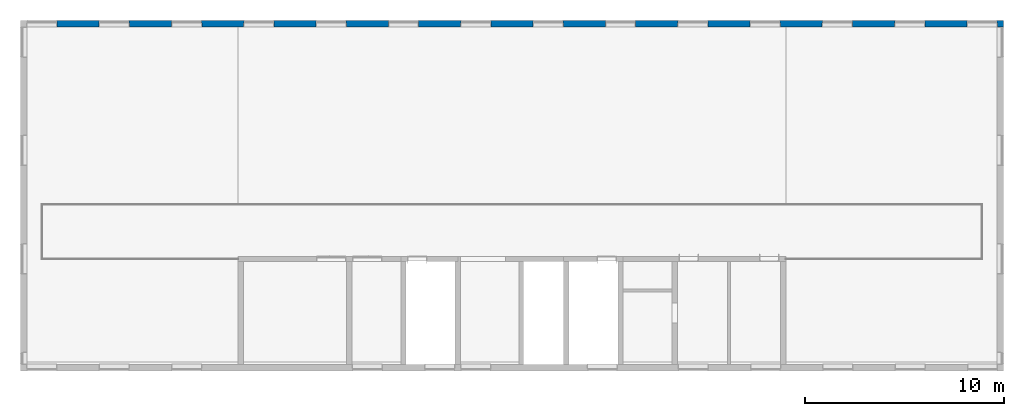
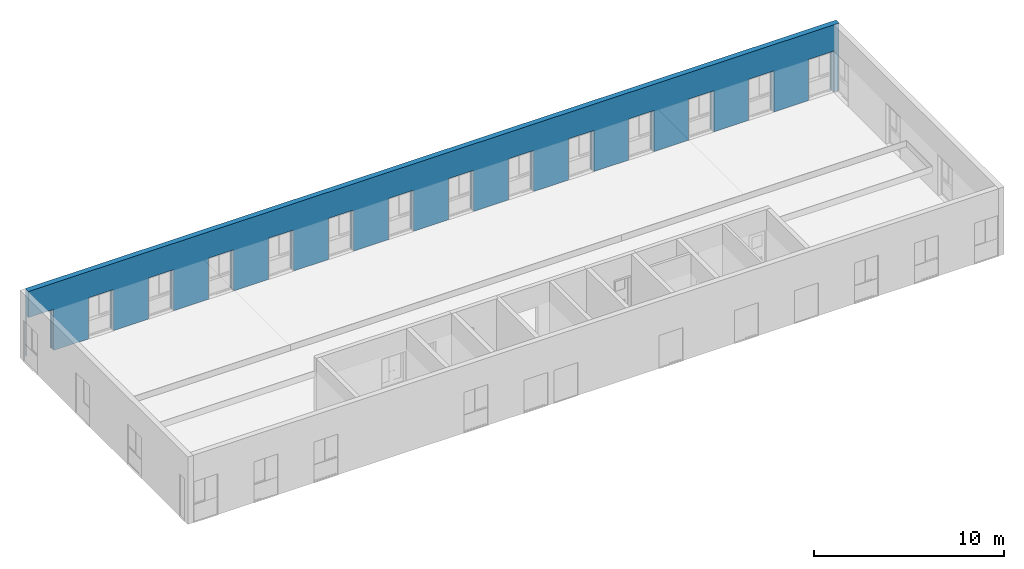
# One storey, part 7 of 11: 1 wall, 14 openings.
"""IFC4X3 building model written with IfcOpenShell, lengths in millimetres."""

import ifcopenshell
import ifcopenshell.guid

model = None  # the IFC model being written
_history = None  # IfcOwnerHistory: only IFC2X3 demands one
_inside = {}  # id of a spatial element -> (the spatial element, [elements in it])
_under = {}  # id of a project, library or spatial element -> (it, [spatial elements below it])
_declared = {}  # id of a project -> (the project, [libraries it declares])
_typed = {}  # id of a type object -> (the type object, [elements of that type])
_made_of = {}  # id of a material, layer set ... -> (it, [elements and type objects made of it])


def new_model(schema):
    """Start an empty IFC model of exactly this schema.

    Asked for "IFC4X3", IfcOpenShell would pick the latest addendum, in which some entities
    have other attributes; the version numbers below select the first issue.
    IFC2X3 requires an IfcOwnerHistory on every rooted entity: one is made here for all.
    """
    global model, _history
    if schema == "IFC4X3":
        model = ifcopenshell.file(schema_version=(4, 3, 0, 0))
    else:
        model = ifcopenshell.file(schema=schema)
    _inside.clear()
    _under.clear()
    _declared.clear()
    _typed.clear()
    _made_of.clear()
    _history = None
    if model.schema == "IFC2X3":
        org = make("IfcOrganization", Name="unknown")
        user = make(
            "IfcPersonAndOrganization",
            ThePerson=make("IfcPerson", FamilyName="unknown"),
            TheOrganization=org,
        )
        app = make(
            "IfcApplication",
            ApplicationDeveloper=org,
            Version="unknown",
            ApplicationFullName="unknown",
            ApplicationIdentifier="unknown",
        )
        _history = make(
            "IfcOwnerHistory",
            OwningUser=user,
            OwningApplication=app,
            ChangeAction="ADDED",
            CreationDate=0,
        )
    return model


def make(cls, **values):
    """One entity of the class cls with the attributes given. An attribute that is None is left unset."""
    return model.create_entity(
        cls, **{name: value for name, value in values.items() if value is not None}
    )


def entity(cls, *values):
    """Any entity or typed value of the class cls, its attributes in the order of the schema. None: left unset."""
    e = model.create_entity(cls)
    for i, value in enumerate(values):
        if value is not None:
            e[i] = value
    return e


def rooted(cls, **values):
    """An entity with a GlobalId (a new one), such as an element, a storey or a relation."""
    return make(cls, GlobalId=ifcopenshell.guid.new(), OwnerHistory=_history, **values)


def si_unit(unit_type, name, prefix=None):
    """IfcSIUnit, for example si_unit("LENGTHUNIT", "METRE", prefix="MILLI")."""
    return make("IfcSIUnit", UnitType=unit_type, Prefix=prefix, Name=name)


def converted_unit(unit_type, name, factor, base, dimensions=None, offset=None):
    """IfcConversionBasedUnit, such as the inch: factor (a typed value) times the base unit."""
    return make(
        "IfcConversionBasedUnit"
        if offset is None
        else "IfcConversionBasedUnitWithOffset",
        ConversionOffset=offset,
        Dimensions=None
        if dimensions is None
        else entity("IfcDimensionalExponents", *dimensions),
        UnitType=unit_type,
        Name=name,
        ConversionFactor=make(
            "IfcMeasureWithUnit", ValueComponent=factor, UnitComponent=base
        ),
    )


def derived_unit(unit_type, elements):
    """IfcDerivedUnit: a product of units, each with its exponent."""
    return make(
        "IfcDerivedUnit",
        Elements=[
            make("IfcDerivedUnitElement", Unit=unit, Exponent=power)
            for unit, power in elements
        ],
        UnitType=unit_type,
    )


def assignment(units):
    """IfcUnitAssignment: the units of a project."""
    return None if units is None else make("IfcUnitAssignment", Units=units)


def point(xyz):
    """IfcCartesianPoint."""
    return None if xyz is None else make("IfcCartesianPoint", Coordinates=xyz)


def direction(xyz):
    """IfcDirection."""
    return None if xyz is None else make("IfcDirection", DirectionRatios=xyz)


def frame(location, z_axis=None, x_axis=None):
    """IfcAxis2Placement3D, a coordinate frame: its origin and axes. An axis left out is left unset."""
    return make(
        "IfcAxis2Placement3D",
        Location=point(location),
        Axis=direction(z_axis),
        RefDirection=direction(x_axis),
    )


def frame_2d(location, x_axis=None):
    """IfcAxis2Placement2D, a coordinate frame in the plane: its origin and x axis."""
    return make(
        "IfcAxis2Placement2D", Location=point(location), RefDirection=direction(x_axis)
    )


def origin():
    """The frame at (0, 0, 0) with its axes left unset."""
    return frame((0.0, 0.0, 0.0))


def place(relative_to, where):
    """IfcLocalPlacement: puts the frame where relative to a parent placement (None: the world)."""
    return make(
        "IfcLocalPlacement", PlacementRelTo=relative_to, RelativePlacement=where
    )


def context(
    kind, dimensions, precision=None, world=None, true_north=None, identifier=None
):
    """IfcGeometricRepresentationContext, for example the 3D "Model" context."""
    return make(
        "IfcGeometricRepresentationContext",
        ContextIdentifier=identifier,
        ContextType=kind,
        CoordinateSpaceDimension=dimensions,
        Precision=precision,
        WorldCoordinateSystem=world,
        TrueNorth=true_north,
    )


def subcontext(parent, identifier, kind, view, scale=None):
    """IfcGeometricRepresentationSubContext, for example "Body" below "Model"."""
    return make(
        "IfcGeometricRepresentationSubContext",
        ContextIdentifier=identifier,
        ContextType=kind,
        ParentContext=parent,
        TargetScale=scale,
        TargetView=view,
    )


def project(units=None, contexts=None):
    """IfcProject with its units and contexts."""
    return rooted(
        "IfcProject",
        Name="project",
        RepresentationContexts=contexts,
        UnitsInContext=assignment(units),
    )


def spatial(cls, under=None, at=None, **own):
    """A site, building, storey or space (cls), placed at a placement, below another one or the project."""
    s = rooted(cls, ObjectPlacement=at, **own)
    if under is not None:
        _under.setdefault(under.id(), (under, []))[1].append(s)
    return s


def profile(cls, at=None, kind="AREA", **sizes):
    """A parametric profile (cls). Its sizes go by their IFC names, for example OverallWidth=200.0."""
    return make(cls, ProfileType=kind, Position=at, **sizes)


def rectangle(**sizes):
    """IfcRectangleProfileDef."""
    return profile("IfcRectangleProfileDef", **sizes)


def extrude(swept, where, along, depth):
    """IfcExtrudedAreaSolid: the profile swept, set in the frame where, extruded along a direction by depth."""
    return make(
        "IfcExtrudedAreaSolid",
        SweptArea=swept,
        Position=where,
        ExtrudedDirection=direction(along),
        Depth=depth,
    )


def faces_of(points, faces, orient=None, outer=None):
    """IfcFace entities. A face is a list of loops; a loop is a list of indices into points, from 0.

    orient and outer hold one flag for each loop. By default every Orientation is true, the
    first loop of a face is its IfcFaceOuterBound and the others are IfcFaceBound.
    """
    made = []
    for i, loops in enumerate(faces):
        bounds = []
        for j, loop in enumerate(loops):
            is_outer = j == 0 if outer is None else outer[i][j]
            bounds.append(
                make(
                    "IfcFaceOuterBound" if is_outer else "IfcFaceBound",
                    Bound=make("IfcPolyLoop", Polygon=[points[k] for k in loop]),
                    Orientation=True if orient is None else orient[i][j],
                )
            )
        made.append(make("IfcFace", Bounds=bounds))
    return made


def faceted_brep(points, faces, orient=None, outer=None, voids=None):
    """IfcFacetedBrep: a solid bounded by flat faces; with voids (closed shells), ...WithVoids."""
    shared = [point(p) for p in points]
    hull = make("IfcClosedShell", CfsFaces=faces_of(shared, faces, orient, outer))
    if voids is None:
        return make("IfcFacetedBrep", Outer=hull)
    return make(
        "IfcFacetedBrepWithVoids",
        Outer=hull,
        Voids=[
            make(cls, CfsFaces=faces_of(shared, fs, o, b)) for cls, fs, o, b in voids
        ],
    )


def shape(context_of_items, identifier, shape_type, items):
    """IfcShapeRepresentation: the items that make up one representation, for example the "Body"."""
    return make(
        "IfcShapeRepresentation",
        ContextOfItems=context_of_items,
        RepresentationIdentifier=identifier,
        RepresentationType=shape_type,
        Items=items,
    )


def material(Name=None, Category=None):
    """IfcMaterial."""
    return make("IfcMaterial", Name=Name, Category=Category)


def layer(
    of_material, thickness, ventilated=None, Name=None, Category=None, Priority=None
):
    """IfcMaterialLayer: one layer of a wall or slab, of a material (None: an air gap)."""
    return make(
        "IfcMaterialLayer",
        Material=of_material,
        LayerThickness=thickness,
        IsVentilated=ventilated,
        Name=Name,
        Category=Category,
        Priority=Priority,
    )


def layer_set(layers, Name=None):
    """IfcMaterialLayerSet."""
    return make("IfcMaterialLayerSet", MaterialLayers=layers, LayerSetName=Name)


def made_of(thing, what):
    """Note that an element or type object is made of a material, layer set ...; save() writes the relation."""
    if what is not None:
        _made_of.setdefault(what.id(), (what, []))[1].append(thing)
    return thing


def type_object(cls, material=None, **own):
    """A type object (cls), such as IfcWallType, which elements share."""
    return made_of(rooted(cls, **own), material)


def element(
    cls,
    number,
    at=None,
    inside=None,
    cuts=None,
    type_object=None,
    material=None,
    context=None,
    identifier="Body",
    shape_type=None,
    held_by="IfcProductDefinitionShape",
    body=None,
    shapes=None,
    **own,
):
    """One element of the class cls, such as IfcWall. Its Tag is "e" and its number.

    at: its placement. inside: the storey or other place that contains it. cuts: it is an
    opening in that element (IfcRelVoidsElement). A single representation is given by context,
    identifier, shape_type and body (its items); several are given by shapes. held_by: the class
    of the entity that holds the representations. save() writes the other relations.
    """
    e = rooted(cls, Tag="e%d" % number, ObjectPlacement=at, **own)
    if body is not None:
        shapes = [shape(context, identifier, shape_type, body)]
    if shapes is not None:
        e.Representation = make(held_by, Representations=shapes)
    if inside is not None:
        _inside.setdefault(inside.id(), (inside, []))[1].append(e)
    if cuts is not None:
        rooted(
            "IfcRelVoidsElement", RelatingBuildingElement=cuts, RelatedOpeningElement=e
        )
    if type_object is not None:
        _typed.setdefault(type_object.id(), (type_object, []))[1].append(e)
    return made_of(e, material)


def aggregate(whole, parts):
    """IfcRelAggregates: a whole, such as a stair, and the parts it consists of."""
    return rooted("IfcRelAggregates", RelatingObject=whole, RelatedObjects=parts)


def save(model, path):
    """Write the relations noted so far, then the file.

    IfcRelAggregates (storeys below a building ...), IfcRelContainedInSpatialStructure (elements
    in a storey), IfcRelDefinesByType, IfcRelAssociatesMaterial and IfcRelDeclares: one each for
    every whole, place, type object, material and project.
    """
    for whole, parts in _under.values():
        aggregate(whole, parts)
    for where, things in _inside.values():
        rooted(
            "IfcRelContainedInSpatialStructure",
            RelatedElements=things,
            RelatingStructure=where,
        )
    for kind, things in _typed.values():
        rooted("IfcRelDefinesByType", RelatedObjects=things, RelatingType=kind)
    for what, things in _made_of.values():
        rooted("IfcRelAssociatesMaterial", RelatedObjects=things, RelatingMaterial=what)
    for by, libraries in _declared.values():
        rooted("IfcRelDeclares", RelatingContext=by, RelatedDefinitions=libraries)
    model.write(path)


model = new_model("IFC4X3")

# Units and contexts
model_context = context("Model", 3, precision=0.01, world=origin(), true_north=direction((6.12303176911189e-17, 1.0)))
body_context = subcontext(model_context, "Body", "Model", "MODEL_VIEW")
ifc_project = project(units=[si_unit("LENGTHUNIT", "METRE", prefix="MILLI"), si_unit("AREAUNIT", "SQUARE_METRE"), si_unit("VOLUMEUNIT", "CUBIC_METRE"), converted_unit("PLANEANGLEUNIT", "DEGREE", entity("IfcPlaneAngleMeasure", 0.0174532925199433), si_unit("PLANEANGLEUNIT", "RADIAN"), dimensions=[0, 0, 0, 0, 0, 0, 0]), si_unit("MASSUNIT", "GRAM", prefix="KILO"), derived_unit("MASSDENSITYUNIT", [(si_unit("MASSUNIT", "GRAM", prefix="KILO"), 1), (si_unit("LENGTHUNIT", "METRE"), -3)]), derived_unit("IONCONCENTRATIONUNIT", [(si_unit("MASSUNIT", "GRAM", prefix="KILO"), 1), (si_unit("LENGTHUNIT", "METRE"), -3)]), derived_unit("MOMENTOFINERTIAUNIT", [(si_unit("LENGTHUNIT", "METRE"), 4)]), si_unit("TIMEUNIT", "SECOND"), si_unit("FREQUENCYUNIT", "HERTZ"), si_unit("THERMODYNAMICTEMPERATUREUNIT", "DEGREE_CELSIUS"), derived_unit("THERMALTRANSMITTANCEUNIT", [(si_unit("MASSUNIT", "GRAM", prefix="KILO"), 1), (si_unit("THERMODYNAMICTEMPERATUREUNIT", "KELVIN"), -1), (si_unit("TIMEUNIT", "SECOND"), -3)]), derived_unit("THERMALCONDUCTANCEUNIT", [(si_unit("MASSUNIT", "GRAM", prefix="KILO"), 1), (si_unit("THERMODYNAMICTEMPERATUREUNIT", "KELVIN"), -1), (si_unit("TIMEUNIT", "SECOND"), -3), (si_unit("LENGTHUNIT", "METRE"), 1)]), derived_unit("VOLUMETRICFLOWRATEUNIT", [(si_unit("LENGTHUNIT", "METRE", prefix="DECI"), 3), (si_unit("TIMEUNIT", "SECOND"), -1)]), derived_unit("MASSFLOWRATEUNIT", [(si_unit("MASSUNIT", "GRAM", prefix="KILO"), 1), (si_unit("TIMEUNIT", "SECOND"), -1)]), derived_unit("ROTATIONALFREQUENCYUNIT", [(si_unit("TIMEUNIT", "SECOND"), -1)]), si_unit("ELECTRICCURRENTUNIT", "AMPERE"), si_unit("ELECTRICVOLTAGEUNIT", "VOLT"), si_unit("POWERUNIT", "WATT"), si_unit("FORCEUNIT", "NEWTON", prefix="KILO"), si_unit("ILLUMINANCEUNIT", "LUX"), si_unit("LUMINOUSFLUXUNIT", "LUMEN"), si_unit("LUMINOUSINTENSITYUNIT", "CANDELA"), si_unit("ENERGYUNIT", "JOULE"), derived_unit("USERDEFINED", [(si_unit("MASSUNIT", "GRAM", prefix="KILO"), -1), (si_unit("LENGTHUNIT", "METRE"), -2), (si_unit("TIMEUNIT", "SECOND"), 3), (si_unit("LUMINOUSFLUXUNIT", "LUMEN"), 1)]), derived_unit("USERDEFINED", [(si_unit("MASSUNIT", "GRAM", prefix="KILO"), 1), (si_unit("TIMEUNIT", "SECOND"), -3), (si_unit("LENGTHUNIT", "METRE"), 3), (si_unit("ELECTRICCURRENTUNIT", "AMPERE"), -2)]), derived_unit("SOUNDPOWERUNIT", [(si_unit("MASSUNIT", "GRAM", prefix="KILO"), 1), (si_unit("TIMEUNIT", "SECOND"), -3), (si_unit("LENGTHUNIT", "METRE"), 2)]), derived_unit("SOUNDPRESSUREUNIT", [(si_unit("MASSUNIT", "GRAM", prefix="KILO"), 1), (si_unit("LENGTHUNIT", "METRE"), -1), (si_unit("TIMEUNIT", "SECOND"), -2)]), derived_unit("LINEARVELOCITYUNIT", [(si_unit("LENGTHUNIT", "METRE"), 1), (si_unit("TIMEUNIT", "SECOND"), -1)]), si_unit("PRESSUREUNIT", "PASCAL"), derived_unit("USERDEFINED", [(si_unit("MASSUNIT", "GRAM", prefix="KILO"), 1), (si_unit("LENGTHUNIT", "METRE"), -2), (si_unit("TIMEUNIT", "SECOND"), -2)]), derived_unit("LINEARFORCEUNIT", [(si_unit("MASSUNIT", "GRAM", prefix="KILO"), 1), (si_unit("TIMEUNIT", "SECOND"), -2)]), derived_unit("PLANARFORCEUNIT", [(si_unit("MASSUNIT", "GRAM", prefix="KILO"), 1), (si_unit("LENGTHUNIT", "METRE"), -1), (si_unit("TIMEUNIT", "SECOND"), -2)]), derived_unit("SPECIFICHEATCAPACITYUNIT", [(si_unit("THERMODYNAMICTEMPERATUREUNIT", "KELVIN"), -1), (si_unit("LENGTHUNIT", "METRE"), 2), (si_unit("TIMEUNIT", "SECOND"), -2)]), derived_unit("HEATFLUXDENSITYUNIT", [(si_unit("MASSUNIT", "GRAM", prefix="KILO"), 1), (si_unit("TIMEUNIT", "SECOND"), -3)]), derived_unit("HEATINGVALUEUNIT", [(si_unit("LENGTHUNIT", "METRE"), 2), (si_unit("TIMEUNIT", "SECOND"), -2)]), derived_unit("VAPORPERMEABILITYUNIT", [(si_unit("LENGTHUNIT", "METRE"), -1), (si_unit("TIMEUNIT", "SECOND"), 1)]), derived_unit("DYNAMICVISCOSITYUNIT", [(si_unit("MASSUNIT", "GRAM", prefix="KILO"), 1), (si_unit("TIMEUNIT", "SECOND"), -1), (si_unit("LENGTHUNIT", "METRE"), -1)]), derived_unit("THERMALEXPANSIONCOEFFICIENTUNIT", [(si_unit("THERMODYNAMICTEMPERATUREUNIT", "KELVIN"), -1)]), derived_unit("MODULUSOFELASTICITYUNIT", [(si_unit("MASSUNIT", "GRAM", prefix="KILO"), 1), (si_unit("LENGTHUNIT", "METRE"), -1), (si_unit("TIMEUNIT", "SECOND"), -2)]), derived_unit("ISOTHERMALMOISTURECAPACITYUNIT", [(si_unit("MASSUNIT", "GRAM", prefix="KILO"), -1), (si_unit("LENGTHUNIT", "METRE"), 3)]), derived_unit("MOISTUREDIFFUSIVITYUNIT", [(si_unit("TIMEUNIT", "SECOND"), -1), (si_unit("LENGTHUNIT", "METRE"), 2)]), derived_unit("AREADENSITYUNIT", [(si_unit("MASSUNIT", "GRAM", prefix="KILO"), 1), (si_unit("LENGTHUNIT", "METRE"), 2)]), derived_unit("MASSPERLENGTHUNIT", [(si_unit("MASSUNIT", "GRAM", prefix="KILO"), 1), (si_unit("LENGTHUNIT", "METRE"), -1)]), derived_unit("THERMALRESISTANCEUNIT", [(si_unit("MASSUNIT", "GRAM", prefix="KILO"), -1), (si_unit("TIMEUNIT", "SECOND"), 3), (si_unit("THERMODYNAMICTEMPERATUREUNIT", "KELVIN"), 1)]), derived_unit("ACCELERATIONUNIT", [(si_unit("LENGTHUNIT", "METRE"), 1), (si_unit("TIMEUNIT", "SECOND"), -2)]), derived_unit("ANGULARVELOCITYUNIT", [(si_unit("TIMEUNIT", "SECOND"), -1), (si_unit("PLANEANGLEUNIT", "RADIAN"), 1)]), derived_unit("LINEARSTIFFNESSUNIT", [(si_unit("MASSUNIT", "GRAM", prefix="KILO"), 1), (si_unit("TIMEUNIT", "SECOND"), -2)]), derived_unit("WARPINGCONSTANTUNIT", [(si_unit("LENGTHUNIT", "METRE"), 6)]), derived_unit("LINEARMOMENTUNIT", [(si_unit("MASSUNIT", "GRAM", prefix="KILO"), 1), (si_unit("LENGTHUNIT", "METRE"), 1), (si_unit("TIMEUNIT", "SECOND"), -2)]), derived_unit("TORQUEUNIT", [(si_unit("MASSUNIT", "GRAM", prefix="KILO"), 1), (si_unit("LENGTHUNIT", "METRE"), 2), (si_unit("TIMEUNIT", "SECOND"), -2)])], contexts=[model_context])

# Site, building, storey
site_placement = place(None, origin())
site = spatial("IfcSite", under=ifc_project, at=site_placement, Name="Default", CompositionType="ELEMENT")
building_placement = place(site_placement, origin())
building = spatial("IfcBuilding", under=site, at=building_placement, Name="事務所ビル", CompositionType="ELEMENT")
storey_placement = place(building_placement, frame((0.0, 0.0, 8000.0)))
storey = spatial("IfcBuildingStorey", under=building, at=storey_placement, Name="3FL", CompositionType="ELEMENT", Elevation=8000.0)

# Wall, openings
ifc_material_1 = material(Name="<Unnamed>")
ifc_layer_1 = layer(ifc_material_1, 46.0, Name="Layer")
ifc_material_2 = material(Name="合板", Category="一般")
ifc_layer_2 = layer(ifc_material_2, 12.0, Name="合板", Category="一般")
ifc_material_3 = material(Name="天然木材", Category="一般")
ifc_layer_3 = layer(ifc_material_3, 240.0, Name="天然木材", Category="一般")
ifc_layer_4 = layer(ifc_material_2, 12.0, Name="合板", Category="一般")
ifc_material_4 = material(Name="せっこうボード", Category="一般")
ifc_layer_5 = layer(ifc_material_4, 15.0, Name="せっこうボード", Category="一般")
ifc_layer_set = layer_set([ifc_layer_1, ifc_layer_2, ifc_layer_3, ifc_layer_4, ifc_layer_5], Name="標準壁:外装材46_構造用合板12_木240_構造用合板12_GB-R15")
wall_type = type_object("IfcWallType", Name="標準壁:外装材46_構造用合板12_木240_構", PredefinedType="STANDARD", material=ifc_layer_set)
wall_placement = place(storey_placement, frame((147.0, 17305.4999999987, 0.0)))
wall = element("IfcWall", 1, at=wall_placement, inside=storey, type_object=wall_type, material=ifc_layer_set, Name="標準壁:外装材46_構造用合板12_木240_構造用合板12_GB-R15", ObjectType="標準壁:外装材46_構造用合板12_木240_構造用合板12_GB-R15", PredefinedType="NOTDEFINED", context=body_context, shape_type="SweptSolid", body=[
    extrude(rectangle(XDim=49170.9999999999, YDim=325.0, at=frame_2d((24585.5, 0.0), x_axis=(1.0, 0.0))), origin(), (0.0, 0.0, 1.0), 4320.0),
])
opening_1_placement = place(wall_placement, frame((-147.0, -17305.4999999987, 0.0)))
element("IfcOpeningElement", 2, at=opening_1_placement, cuts=wall, Name="標準壁:外装材46_構造用合板12_木240_構造用合板12_GB-R15", PredefinedType="OPENING", context=body_context, shape_type="Brep", body=[
    faceted_brep([(47475.0, 17338.0, -105.0), (48985.0, 17338.0, -105.0), (48985.0, 17338.0, -35.0), (47475.0, 17338.0, -35.0), (47495.0, 17408.0, 2610.0), (47495.0, 17468.0, 2610.0), (47495.0, 17468.0, -10.0), (47495.0, 17408.0, -10.0), (48965.0, 17408.0, -10.0), (48965.0, 17468.0, -10.0), (48965.0, 17468.0, 2610.0), (48965.0, 17408.0, 2610.0), (47465.0, 17133.0, -35.0), (47465.0, 17133.0, 2635.0), (47465.0, 17338.0, 2635.0), (47465.0, 17338.0, -35.0), (48995.0, 17133.0, -35.0), (48995.0, 17338.0, -35.0), (48995.0, 17338.0, 2635.0), (48995.0, 17133.0, 2635.0), (48985.0, 17338.0, 2630.0), (47475.0, 17338.0, 2630.0), (47475.0, 17408.0, 2630.0), (47475.0, 17408.0, -115.769230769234), (48985.0, 17408.0, -115.769230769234), (48985.0, 17408.0, 2630.0)], [[[0, 1, 2, 3]], [[4, 5, 6, 7]], [[8, 9, 10, 11]], [[7, 6, 9, 8]], [[5, 4, 11, 10]], [[12, 13, 14, 15]], [[16, 17, 18, 19]], [[12, 15, 3, 2, 17, 16]], [[15, 14, 18, 17, 2, 20, 21, 3]], [[14, 13, 19, 18]], [[13, 12, 16, 19]], [[21, 22, 23, 0, 3]], [[1, 24, 25, 20, 2]], [[0, 23, 24, 1]], [[23, 22, 25, 24], [4, 7, 8, 11]], [[22, 21, 20, 25]], [[6, 5, 10, 9]]]),
])
opening_2_placement = place(wall_placement, frame((-147.0, -17305.4999999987, 0.0)))
element("IfcOpeningElement", 3, at=opening_2_placement, cuts=wall, Name="標準壁:外装材46_構造用合板12_木240_構造用合板12_GB-R15", PredefinedType="OPENING", context=body_context, shape_type="Brep", body=[
    faceted_brep([(43835.0, 17338.0, -105.0), (45345.0, 17338.0, -105.0), (45345.0, 17338.0, -35.0), (43835.0, 17338.0, -35.0), (43855.0, 17408.0, 2610.0), (43855.0, 17468.0, 2610.0), (43855.0, 17468.0, -10.0), (43855.0, 17408.0, -10.0), (45325.0, 17408.0, -10.0), (45325.0, 17468.0, -10.0), (45325.0, 17468.0, 2610.0), (45325.0, 17408.0, 2610.0), (43825.0, 17133.0, -35.0), (43825.0, 17133.0, 2635.0), (43825.0, 17338.0, 2635.0), (43825.0, 17338.0, -35.0), (45355.0, 17133.0, -35.0), (45355.0, 17338.0, -35.0), (45355.0, 17338.0, 2635.0), (45355.0, 17133.0, 2635.0), (45345.0, 17338.0, 2630.0), (43835.0, 17338.0, 2630.0), (43835.0, 17408.0, 2630.0), (43835.0, 17408.0, -115.769230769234), (45345.0, 17408.0, -115.769230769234), (45345.0, 17408.0, 2630.0)], [[[0, 1, 2, 3]], [[4, 5, 6, 7]], [[8, 9, 10, 11]], [[7, 6, 9, 8]], [[5, 4, 11, 10]], [[12, 13, 14, 15]], [[16, 17, 18, 19]], [[12, 15, 3, 2, 17, 16]], [[15, 14, 18, 17, 2, 20, 21, 3]], [[14, 13, 19, 18]], [[13, 12, 16, 19]], [[21, 22, 23, 0, 3]], [[1, 24, 25, 20, 2]], [[0, 23, 24, 1]], [[23, 22, 25, 24], [4, 7, 8, 11]], [[22, 21, 20, 25]], [[6, 5, 10, 9]]]),
])
opening_3_placement = place(wall_placement, frame((-147.0, -17305.4999999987, 0.0)))
element("IfcOpeningElement", 4, at=opening_3_placement, cuts=wall, Name="標準壁:外装材46_構造用合板12_木240_構造用合板12_GB-R15", PredefinedType="OPENING", context=body_context, shape_type="Brep", body=[
    faceted_brep([(40195.0, 17338.0, -105.0), (41705.0, 17338.0, -105.0), (41705.0, 17338.0, -35.0), (40195.0, 17338.0, -35.0), (40215.0, 17408.0, 2610.0), (40215.0, 17468.0, 2610.0), (40215.0, 17468.0, -10.0), (40215.0, 17408.0, -10.0), (41685.0, 17408.0, -10.0), (41685.0, 17468.0, -10.0), (41685.0, 17468.0, 2610.0), (41685.0, 17408.0, 2610.0), (40185.0, 17133.0, -35.0), (40185.0, 17133.0, 2635.0), (40185.0, 17338.0, 2635.0), (40185.0, 17338.0, -35.0), (41715.0, 17133.0, -35.0), (41715.0, 17338.0, -35.0), (41715.0, 17338.0, 2635.0), (41715.0, 17133.0, 2635.0), (41705.0, 17338.0, 2630.0), (40195.0, 17338.0, 2630.0), (40195.0, 17408.0, 2630.0), (40195.0, 17408.0, -115.769230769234), (41705.0, 17408.0, -115.769230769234), (41705.0, 17408.0, 2630.0)], [[[0, 1, 2, 3]], [[4, 5, 6, 7]], [[8, 9, 10, 11]], [[7, 6, 9, 8]], [[5, 4, 11, 10]], [[12, 13, 14, 15]], [[16, 17, 18, 19]], [[12, 15, 3, 2, 17, 16]], [[15, 14, 18, 17, 2, 20, 21, 3]], [[14, 13, 19, 18]], [[13, 12, 16, 19]], [[21, 22, 23, 0, 3]], [[1, 24, 25, 20, 2]], [[0, 23, 24, 1]], [[23, 22, 25, 24], [4, 7, 8, 11]], [[22, 21, 20, 25]], [[6, 5, 10, 9]]]),
])
opening_4_placement = place(wall_placement, frame((-147.0, -17305.4999999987, 0.0)))
element("IfcOpeningElement", 5, at=opening_4_placement, cuts=wall, Name="標準壁:外装材46_構造用合板12_木240_構造用合板12_GB-R15", PredefinedType="OPENING", context=body_context, shape_type="Brep", body=[
    faceted_brep([(36555.0, 17338.0, -105.0), (38065.0, 17338.0, -105.0), (38065.0, 17338.0, -35.0), (36555.0, 17338.0, -35.0), (36575.0, 17408.0, 2610.0), (36575.0, 17468.0, 2610.0), (36575.0, 17468.0, -10.0), (36575.0, 17408.0, -10.0), (38045.0, 17408.0, -10.0), (38045.0, 17468.0, -10.0), (38045.0, 17468.0, 2610.0), (38045.0, 17408.0, 2610.0), (36545.0, 17133.0, -35.0), (36545.0, 17133.0, 2635.0), (36545.0, 17338.0, 2635.0), (36545.0, 17338.0, -35.0), (38075.0, 17133.0, -35.0), (38075.0, 17338.0, -35.0), (38075.0, 17338.0, 2635.0), (38075.0, 17133.0, 2635.0), (38065.0, 17338.0, 2630.0), (36555.0, 17338.0, 2630.0), (36555.0, 17408.0, 2630.0), (36555.0, 17408.0, -115.769230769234), (38065.0, 17408.0, -115.769230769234), (38065.0, 17408.0, 2630.0)], [[[0, 1, 2, 3]], [[4, 5, 6, 7]], [[8, 9, 10, 11]], [[7, 6, 9, 8]], [[5, 4, 11, 10]], [[12, 13, 14, 15]], [[16, 17, 18, 19]], [[12, 15, 3, 2, 17, 16]], [[15, 14, 18, 17, 2, 20, 21, 3]], [[14, 13, 19, 18]], [[13, 12, 16, 19]], [[21, 22, 23, 0, 3]], [[1, 24, 25, 20, 2]], [[0, 23, 24, 1]], [[23, 22, 25, 24], [4, 7, 8, 11]], [[22, 21, 20, 25]], [[6, 5, 10, 9]]]),
])
opening_5_placement = place(wall_placement, frame((-147.0, -17305.4999999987, 0.0)))
element("IfcOpeningElement", 6, at=opening_5_placement, cuts=wall, Name="標準壁:外装材46_構造用合板12_木240_構造用合板12_GB-R15", PredefinedType="OPENING", context=body_context, shape_type="Brep", body=[
    faceted_brep([(32915.0, 17338.0, -105.0), (34425.0, 17338.0, -105.0), (34425.0, 17338.0, -35.0), (32915.0, 17338.0, -35.0), (32935.0, 17408.0, 2610.0), (32935.0, 17468.0, 2610.0), (32935.0, 17468.0, -10.0), (32935.0, 17408.0, -10.0), (34405.0, 17408.0, -10.0), (34405.0, 17468.0, -10.0), (34405.0, 17468.0, 2610.0), (34405.0, 17408.0, 2610.0), (32905.0, 17133.0, -35.0), (32905.0, 17133.0, 2635.0), (32905.0, 17338.0, 2635.0), (32905.0, 17338.0, -35.0), (34435.0, 17133.0, -35.0), (34435.0, 17338.0, -35.0), (34435.0, 17338.0, 2635.0), (34435.0, 17133.0, 2635.0), (34425.0, 17338.0, 2630.0), (32915.0, 17338.0, 2630.0), (32915.0, 17408.0, 2630.0), (32915.0, 17408.0, -115.769230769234), (34425.0, 17408.0, -115.769230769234), (34425.0, 17408.0, 2630.0)], [[[0, 1, 2, 3]], [[4, 5, 6, 7]], [[8, 9, 10, 11]], [[7, 6, 9, 8]], [[5, 4, 11, 10]], [[12, 13, 14, 15]], [[16, 17, 18, 19]], [[12, 15, 3, 2, 17, 16]], [[15, 14, 18, 17, 2, 20, 21, 3]], [[14, 13, 19, 18]], [[13, 12, 16, 19]], [[21, 22, 23, 0, 3]], [[1, 24, 25, 20, 2]], [[0, 23, 24, 1]], [[23, 22, 25, 24], [4, 7, 8, 11]], [[22, 21, 20, 25]], [[6, 5, 10, 9]]]),
])
opening_6_placement = place(wall_placement, frame((-147.0, -17305.4999999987, 0.0)))
element("IfcOpeningElement", 7, at=opening_6_placement, cuts=wall, Name="標準壁:外装材46_構造用合板12_木240_構造用合板12_GB-R15", PredefinedType="OPENING", context=body_context, shape_type="Brep", body=[
    faceted_brep([(29275.0, 17338.0, -105.0), (30785.0, 17338.0, -105.0), (30785.0, 17338.0, -35.0), (29275.0, 17338.0, -35.0), (29295.0, 17408.0, 2610.0), (29295.0, 17468.0, 2610.0), (29295.0, 17468.0, -10.0), (29295.0, 17408.0, -10.0), (30765.0, 17408.0, -10.0), (30765.0, 17468.0, -10.0), (30765.0, 17468.0, 2610.0), (30765.0, 17408.0, 2610.0), (29265.0, 17133.0, -35.0), (29265.0, 17133.0, 2635.0), (29265.0, 17338.0, 2635.0), (29265.0, 17338.0, -35.0), (30795.0, 17133.0, -35.0), (30795.0, 17338.0, -35.0), (30795.0, 17338.0, 2635.0), (30795.0, 17133.0, 2635.0), (30785.0, 17338.0, 2630.0), (29275.0, 17338.0, 2630.0), (29275.0, 17408.0, 2630.0), (29275.0, 17408.0, -115.769230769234), (30785.0, 17408.0, -115.769230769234), (30785.0, 17408.0, 2630.0)], [[[0, 1, 2, 3]], [[4, 5, 6, 7]], [[8, 9, 10, 11]], [[7, 6, 9, 8]], [[5, 4, 11, 10]], [[12, 13, 14, 15]], [[16, 17, 18, 19]], [[12, 15, 3, 2, 17, 16]], [[15, 14, 18, 17, 2, 20, 21, 3]], [[14, 13, 19, 18]], [[13, 12, 16, 19]], [[21, 22, 23, 0, 3]], [[1, 24, 25, 20, 2]], [[0, 23, 24, 1]], [[23, 22, 25, 24], [4, 7, 8, 11]], [[22, 21, 20, 25]], [[6, 5, 10, 9]]]),
])
opening_7_placement = place(wall_placement, frame((-147.0, -17305.4999999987, 0.0)))
element("IfcOpeningElement", 8, at=opening_7_placement, cuts=wall, Name="標準壁:外装材46_構造用合板12_木240_構造用合板12_GB-R15", PredefinedType="OPENING", context=body_context, shape_type="Brep", body=[
    faceted_brep([(25635.0, 17338.0, -105.0), (27145.0, 17338.0, -105.0), (27145.0, 17338.0, -35.0), (25635.0, 17338.0, -35.0), (25655.0, 17408.0, 2610.0), (25655.0, 17468.0, 2610.0), (25655.0, 17468.0, -10.0), (25655.0, 17408.0, -10.0), (27125.0, 17408.0, -10.0), (27125.0, 17468.0, -10.0), (27125.0, 17468.0, 2610.0), (27125.0, 17408.0, 2610.0), (25625.0, 17133.0, -35.0), (25625.0, 17133.0, 2635.0), (25625.0, 17338.0, 2635.0), (25625.0, 17338.0, -35.0), (27155.0, 17133.0, -35.0), (27155.0, 17338.0, -35.0), (27155.0, 17338.0, 2635.0), (27155.0, 17133.0, 2635.0), (27145.0, 17338.0, 2630.0), (25635.0, 17338.0, 2630.0), (25635.0, 17408.0, 2630.0), (25635.0, 17408.0, -115.769230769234), (27145.0, 17408.0, -115.769230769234), (27145.0, 17408.0, 2630.0)], [[[0, 1, 2, 3]], [[4, 5, 6, 7]], [[8, 9, 10, 11]], [[7, 6, 9, 8]], [[5, 4, 11, 10]], [[12, 13, 14, 15]], [[16, 17, 18, 19]], [[12, 15, 3, 2, 17, 16]], [[15, 14, 18, 17, 2, 20, 21, 3]], [[14, 13, 19, 18]], [[13, 12, 16, 19]], [[21, 22, 23, 0, 3]], [[1, 24, 25, 20, 2]], [[0, 23, 24, 1]], [[23, 22, 25, 24], [4, 7, 8, 11]], [[22, 21, 20, 25]], [[6, 5, 10, 9]]]),
])
opening_8_placement = place(wall_placement, frame((-147.0, -17305.4999999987, 0.0)))
element("IfcOpeningElement", 9, at=opening_8_placement, cuts=wall, Name="標準壁:外装材46_構造用合板12_木240_構造用合板12_GB-R15", PredefinedType="OPENING", context=body_context, shape_type="Brep", body=[
    faceted_brep([(21995.0, 17338.0, -105.0), (23505.0, 17338.0, -105.0), (23505.0, 17338.0, -35.0), (21995.0, 17338.0, -35.0), (22015.0, 17408.0, 2610.0), (22015.0, 17468.0, 2610.0), (22015.0, 17468.0, -10.0), (22015.0, 17408.0, -10.0), (23485.0, 17408.0, -10.0), (23485.0, 17468.0, -10.0), (23485.0, 17468.0, 2610.0), (23485.0, 17408.0, 2610.0), (21985.0, 17133.0, -35.0), (21985.0, 17133.0, 2635.0), (21985.0, 17338.0, 2635.0), (21985.0, 17338.0, -35.0), (23515.0, 17133.0, -35.0), (23515.0, 17338.0, -35.0), (23515.0, 17338.0, 2635.0), (23515.0, 17133.0, 2635.0), (23505.0, 17338.0, 2630.0), (21995.0, 17338.0, 2630.0), (21995.0, 17408.0, 2630.0), (21995.0, 17408.0, -115.769230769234), (23505.0, 17408.0, -115.769230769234), (23505.0, 17408.0, 2630.0)], [[[0, 1, 2, 3]], [[4, 5, 6, 7]], [[8, 9, 10, 11]], [[7, 6, 9, 8]], [[5, 4, 11, 10]], [[12, 13, 14, 15]], [[16, 17, 18, 19]], [[12, 15, 3, 2, 17, 16]], [[15, 14, 18, 17, 2, 20, 21, 3]], [[14, 13, 19, 18]], [[13, 12, 16, 19]], [[21, 22, 23, 0, 3]], [[1, 24, 25, 20, 2]], [[0, 23, 24, 1]], [[23, 22, 25, 24], [4, 7, 8, 11]], [[22, 21, 20, 25]], [[6, 5, 10, 9]]]),
])
opening_9_placement = place(wall_placement, frame((-147.0, -17305.4999999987, 0.0)))
element("IfcOpeningElement", 10, at=opening_9_placement, cuts=wall, Name="標準壁:外装材46_構造用合板12_木240_構造用合板12_GB-R15", PredefinedType="OPENING", context=body_context, shape_type="Brep", body=[
    faceted_brep([(18355.0, 17338.0, -105.0), (19865.0, 17338.0, -105.0), (19865.0, 17338.0, -35.0), (18355.0, 17338.0, -35.0), (18375.0, 17408.0, 2610.0), (18375.0, 17468.0, 2610.0), (18375.0, 17468.0, -10.0), (18375.0, 17408.0, -10.0), (19845.0, 17408.0, -10.0), (19845.0, 17468.0, -10.0), (19845.0, 17468.0, 2610.0), (19845.0, 17408.0, 2610.0), (18345.0, 17133.0, -35.0), (18345.0, 17133.0, 2635.0), (18345.0, 17338.0, 2635.0), (18345.0, 17338.0, -35.0), (19875.0, 17133.0, -35.0), (19875.0, 17338.0, -35.0), (19875.0, 17338.0, 2635.0), (19875.0, 17133.0, 2635.0), (19865.0, 17338.0, 2630.0), (18355.0, 17338.0, 2630.0), (18355.0, 17408.0, 2630.0), (18355.0, 17408.0, -115.769230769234), (19865.0, 17408.0, -115.769230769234), (19865.0, 17408.0, 2630.0)], [[[0, 1, 2, 3]], [[4, 5, 6, 7]], [[8, 9, 10, 11]], [[7, 6, 9, 8]], [[5, 4, 11, 10]], [[12, 13, 14, 15]], [[16, 17, 18, 19]], [[12, 15, 3, 2, 17, 16]], [[15, 14, 18, 17, 2, 20, 21, 3]], [[14, 13, 19, 18]], [[13, 12, 16, 19]], [[21, 22, 23, 0, 3]], [[1, 24, 25, 20, 2]], [[0, 23, 24, 1]], [[23, 22, 25, 24], [4, 7, 8, 11]], [[22, 21, 20, 25]], [[6, 5, 10, 9]]]),
])
opening_10_placement = place(wall_placement, frame((-147.0, -17305.4999999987, 0.0)))
element("IfcOpeningElement", 11, at=opening_10_placement, cuts=wall, Name="標準壁:外装材46_構造用合板12_木240_構造用合板12_GB-R15", PredefinedType="OPENING", context=body_context, shape_type="Brep", body=[
    faceted_brep([(14715.0, 17338.0, -105.0), (16225.0, 17338.0, -105.0), (16225.0, 17338.0, -35.0), (14715.0, 17338.0, -35.0), (14735.0, 17408.0, 2610.0), (14735.0, 17468.0, 2610.0), (14735.0, 17468.0, -10.0), (14735.0, 17408.0, -10.0), (16205.0, 17408.0, -10.0), (16205.0, 17468.0, -10.0), (16205.0, 17468.0, 2610.0), (16205.0, 17408.0, 2610.0), (14705.0, 17133.0, -35.0), (14705.0, 17133.0, 2635.0), (14705.0, 17338.0, 2635.0), (14705.0, 17338.0, -35.0), (16235.0, 17133.0, -35.0), (16235.0, 17338.0, -35.0), (16235.0, 17338.0, 2635.0), (16235.0, 17133.0, 2635.0), (16225.0, 17338.0, 2630.0), (14715.0, 17338.0, 2630.0), (14715.0, 17408.0, 2630.0), (14715.0, 17408.0, -115.769230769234), (16225.0, 17408.0, -115.769230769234), (16225.0, 17408.0, 2630.0)], [[[0, 1, 2, 3]], [[4, 5, 6, 7]], [[8, 9, 10, 11]], [[7, 6, 9, 8]], [[5, 4, 11, 10]], [[12, 13, 14, 15]], [[16, 17, 18, 19]], [[12, 15, 3, 2, 17, 16]], [[15, 14, 18, 17, 2, 20, 21, 3]], [[14, 13, 19, 18]], [[13, 12, 16, 19]], [[21, 22, 23, 0, 3]], [[1, 24, 25, 20, 2]], [[0, 23, 24, 1]], [[23, 22, 25, 24], [4, 7, 8, 11]], [[22, 21, 20, 25]], [[6, 5, 10, 9]]]),
])
opening_11_placement = place(wall_placement, frame((-147.0, -17305.4999999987, 0.0)))
element("IfcOpeningElement", 12, at=opening_11_placement, cuts=wall, Name="標準壁:外装材46_構造用合板12_木240_構造用合板12_GB-R15", PredefinedType="OPENING", context=body_context, shape_type="Brep", body=[
    faceted_brep([(11075.0, 17338.0, -105.0), (12585.0, 17338.0, -105.0), (12585.0, 17338.0, -35.0), (11075.0, 17338.0, -35.0), (11095.0, 17408.0, 2610.0), (11095.0, 17468.0, 2610.0), (11095.0, 17468.0, -10.0), (11095.0, 17408.0, -10.0), (12565.0, 17408.0, -10.0), (12565.0, 17468.0, -10.0), (12565.0, 17468.0, 2610.0), (12565.0, 17408.0, 2610.0), (11065.0, 17133.0, -35.0), (11065.0, 17133.0, 2635.0), (11065.0, 17338.0, 2635.0), (11065.0, 17338.0, -35.0), (12595.0, 17133.0, -35.0), (12595.0, 17338.0, -35.0), (12595.0, 17338.0, 2635.0), (12595.0, 17133.0, 2635.0), (12585.0, 17338.0, 2630.0), (11075.0, 17338.0, 2630.0), (11075.0, 17408.0, 2630.0), (11075.0, 17408.0, -115.769230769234), (12585.0, 17408.0, -115.769230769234), (12585.0, 17408.0, 2630.0)], [[[0, 1, 2, 3]], [[4, 5, 6, 7]], [[8, 9, 10, 11]], [[7, 6, 9, 8]], [[5, 4, 11, 10]], [[12, 13, 14, 15]], [[16, 17, 18, 19]], [[12, 15, 3, 2, 17, 16]], [[15, 14, 18, 17, 2, 20, 21, 3]], [[14, 13, 19, 18]], [[13, 12, 16, 19]], [[21, 22, 23, 0, 3]], [[1, 24, 25, 20, 2]], [[0, 23, 24, 1]], [[23, 22, 25, 24], [4, 7, 8, 11]], [[22, 21, 20, 25]], [[6, 5, 10, 9]]]),
])
opening_12_placement = place(wall_placement, frame((-147.0, -17305.4999999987, 0.0)))
element("IfcOpeningElement", 13, at=opening_12_placement, cuts=wall, Name="標準壁:外装材46_構造用合板12_木240_構造用合板12_GB-R15", PredefinedType="OPENING", context=body_context, shape_type="Brep", body=[
    faceted_brep([(7435.0, 17338.0, -105.0), (8945.0, 17338.0, -105.0), (8945.0, 17338.0, -35.0), (7435.0, 17338.0, -35.0), (7455.0, 17408.0, 2610.0), (7455.0, 17468.0, 2610.0), (7455.0, 17468.0, -10.0), (7455.0, 17408.0, -10.0), (8925.0, 17408.0, -10.0), (8925.0, 17468.0, -10.0), (8925.0, 17468.0, 2610.0), (8925.0, 17408.0, 2610.0), (7425.0, 17133.0, -35.0), (7425.0, 17133.0, 2635.0), (7425.0, 17338.0, 2635.0), (7425.0, 17338.0, -35.0), (8955.0, 17133.0, -35.0), (8955.0, 17338.0, -35.0), (8955.0, 17338.0, 2635.0), (8955.0, 17133.0, 2635.0), (8945.0, 17338.0, 2630.0), (7435.0, 17338.0, 2630.0), (7435.0, 17408.0, 2630.0), (7435.0, 17408.0, -115.769230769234), (8945.0, 17408.0, -115.769230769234), (8945.0, 17408.0, 2630.0)], [[[0, 1, 2, 3]], [[4, 5, 6, 7]], [[8, 9, 10, 11]], [[7, 6, 9, 8]], [[5, 4, 11, 10]], [[12, 13, 14, 15]], [[16, 17, 18, 19]], [[12, 15, 3, 2, 17, 16]], [[15, 14, 18, 17, 2, 20, 21, 3]], [[14, 13, 19, 18]], [[13, 12, 16, 19]], [[21, 22, 23, 0, 3]], [[1, 24, 25, 20, 2]], [[0, 23, 24, 1]], [[23, 22, 25, 24], [4, 7, 8, 11]], [[22, 21, 20, 25]], [[6, 5, 10, 9]]]),
])
opening_13_placement = place(wall_placement, frame((-147.0, -17305.4999999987, 0.0)))
element("IfcOpeningElement", 14, at=opening_13_placement, cuts=wall, Name="標準壁:外装材46_構造用合板12_木240_構造用合板12_GB-R15", PredefinedType="OPENING", context=body_context, shape_type="Brep", body=[
    faceted_brep([(3795.0, 17338.0, -105.0), (5305.0, 17338.0, -105.0), (5305.0, 17338.0, -35.0), (3795.0, 17338.0, -35.0), (3815.0, 17408.0, 2610.0), (3815.0, 17468.0, 2610.0), (3815.0, 17468.0, -10.0), (3815.0, 17408.0, -10.0), (5285.0, 17408.0, -10.0), (5285.0, 17468.0, -10.0), (5285.0, 17468.0, 2610.0), (5285.0, 17408.0, 2610.0), (3785.0, 17133.0, -35.0), (3785.0, 17133.0, 2635.0), (3785.0, 17338.0, 2635.0), (3785.0, 17338.0, -35.0), (5315.0, 17133.0, -35.0), (5315.0, 17338.0, -35.0), (5315.0, 17338.0, 2635.0), (5315.0, 17133.0, 2635.0), (5305.0, 17338.0, 2630.0), (3795.0, 17338.0, 2630.0), (3795.0, 17408.0, 2630.0), (3795.0, 17408.0, -115.769230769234), (5305.0, 17408.0, -115.769230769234), (5305.0, 17408.0, 2630.0)], [[[0, 1, 2, 3]], [[4, 5, 6, 7]], [[8, 9, 10, 11]], [[7, 6, 9, 8]], [[5, 4, 11, 10]], [[12, 13, 14, 15]], [[16, 17, 18, 19]], [[12, 15, 3, 2, 17, 16]], [[15, 14, 18, 17, 2, 20, 21, 3]], [[14, 13, 19, 18]], [[13, 12, 16, 19]], [[21, 22, 23, 0, 3]], [[1, 24, 25, 20, 2]], [[0, 23, 24, 1]], [[23, 22, 25, 24], [4, 7, 8, 11]], [[22, 21, 20, 25]], [[6, 5, 10, 9]]]),
])
opening_14_placement = place(wall_placement, frame((-147.0, -17305.4999999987, 0.0)))
element("IfcOpeningElement", 15, at=opening_14_placement, cuts=wall, Name="標準壁:外装材46_構造用合板12_木240_構造用合板12_GB-R15", PredefinedType="OPENING", context=body_context, shape_type="Brep", body=[
    faceted_brep([(155.0, 17338.0, -105.0), (1665.0, 17338.0, -105.0), (1665.0, 17338.0, -35.0), (155.0, 17338.0, -35.0), (175.0, 17408.0, 2610.0), (175.0, 17468.0, 2610.0), (175.0, 17468.0, -10.0), (175.0, 17408.0, -10.0), (1645.0, 17408.0, -10.0), (1645.0, 17468.0, -10.0), (1645.0, 17468.0, 2610.0), (1645.0, 17408.0, 2610.0), (145.0, 17133.0, -35.0), (145.0, 17133.0, 2635.0), (145.0, 17338.0, 2635.0), (145.0, 17338.0, -35.0), (1675.0, 17133.0, -35.0), (1675.0, 17338.0, -35.0), (1675.0, 17338.0, 2635.0), (1675.0, 17133.0, 2635.0), (1665.0, 17338.0, 2630.0), (155.0, 17338.0, 2630.0), (155.0, 17408.0, 2630.0), (155.0, 17408.0, -115.769230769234), (1665.0, 17408.0, -115.769230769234), (1665.0, 17408.0, 2630.0)], [[[0, 1, 2, 3]], [[4, 5, 6, 7]], [[8, 9, 10, 11]], [[7, 6, 9, 8]], [[5, 4, 11, 10]], [[12, 13, 14, 15]], [[16, 17, 18, 19]], [[12, 15, 3, 2, 17, 16]], [[15, 14, 18, 17, 2, 20, 21, 3]], [[14, 13, 19, 18]], [[13, 12, 16, 19]], [[21, 22, 23, 0, 3]], [[1, 24, 25, 20, 2]], [[0, 23, 24, 1]], [[23, 22, 25, 24], [4, 7, 8, 11]], [[22, 21, 20, 25]], [[6, 5, 10, 9]]]),
])

save(model, "model.ifc")
